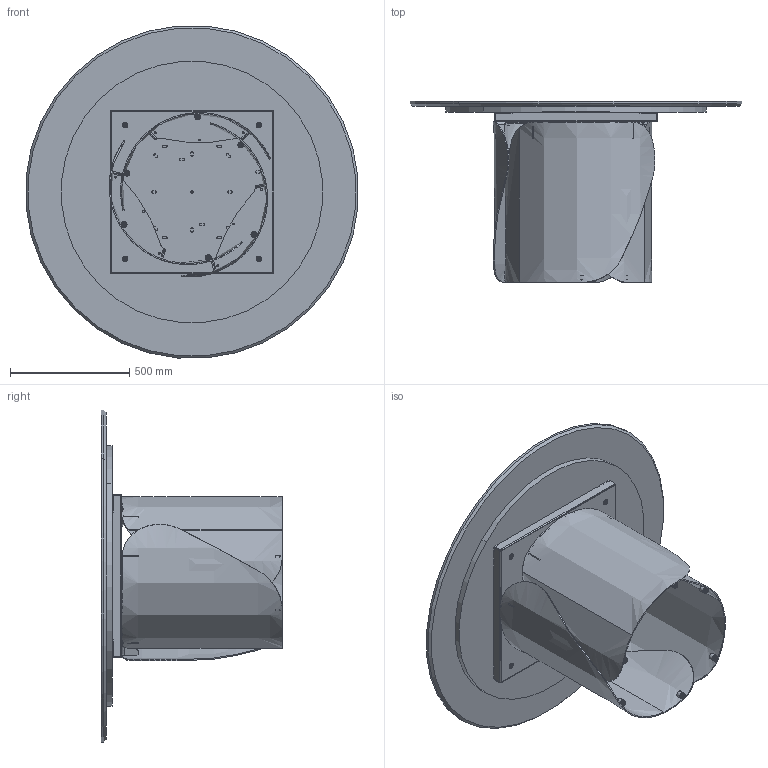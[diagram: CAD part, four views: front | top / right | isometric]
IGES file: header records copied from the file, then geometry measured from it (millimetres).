
Start section: SolidWorks IGES file using analytic representation for surfaces
Global section: file name: Y:\eforma\TECNICO\SOLIDWORKS\E-FORMA\1-TAVOLI\ONDA\02 parts\ON06M.IGS; native system: SolidWorks 2022; preprocessor: SolidWorks 2022; author: eforma.tech; date: 240806.153000; units: millimetre
Bounding box: 1394.67 x 761 x 1394.67 mm (x, y, z)
Volume: 65083255.7 mm3; surface area: 9769296.3 mm2
Topology: 63 solids, 63 shells, 1715 faces, 4041 edges, 2479 vertices
Faces by surface type: revolution 979, plane 676, bspline 60
